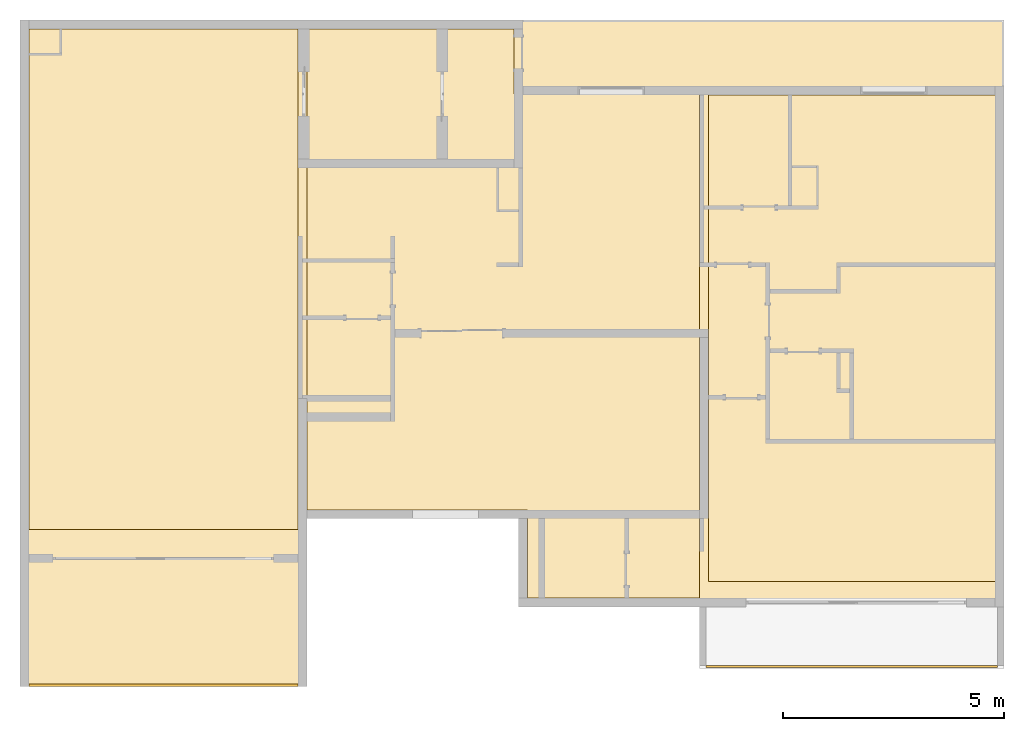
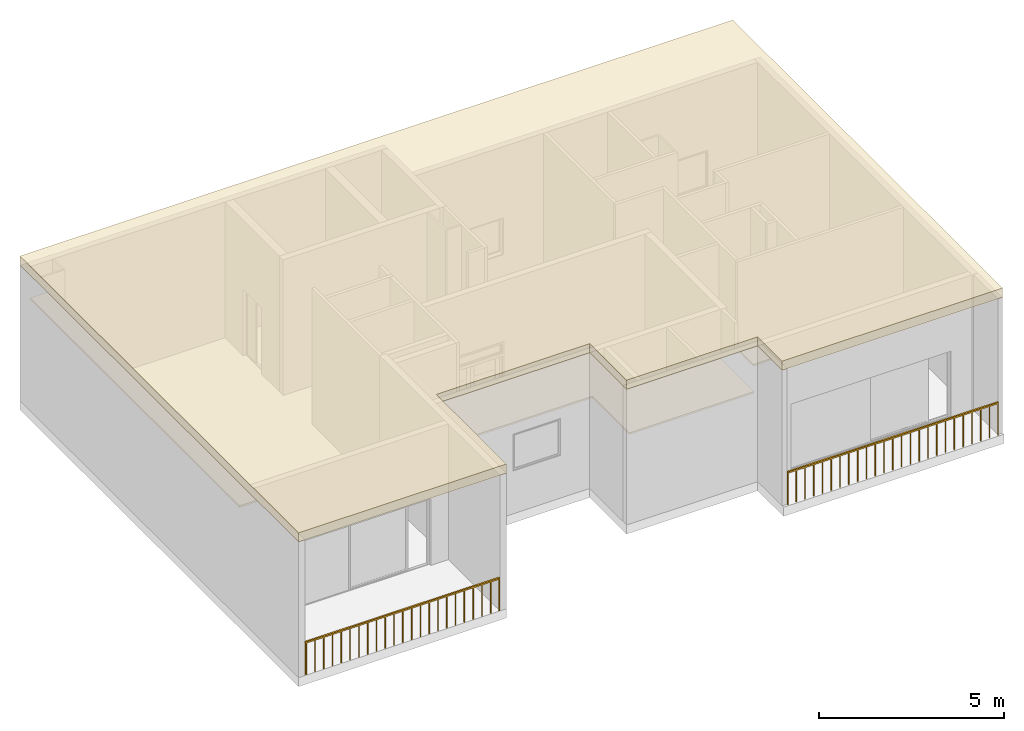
# One storey, part 6 of 7: 4 coverings, 2 railings.
"""IFC2X3 building model written with IfcOpenShell, lengths in metres."""

from ifc_helpers import new_model, entity, si_unit, converted_unit, derived_unit, direction, frame, frame_2d, origin, origin_2d_with_axis, place, context, subcontext, project, spatial, polyline, rectangle, outline, extrude, material, material_list, layer, layer_set, layer_usage, type_object, element, save


model = new_model("IFC2X3")

# Units and contexts
model_context = context("Model", 3, precision=1e-05, world=origin(), true_north=direction((6.123031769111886e-17, 1.0)))
body_context = subcontext(model_context, "Body", "Model", "MODEL_VIEW")
ifc_project = project(units=[si_unit("LENGTHUNIT", "METRE"), si_unit("AREAUNIT", "SQUARE_METRE"), si_unit("VOLUMEUNIT", "CUBIC_METRE"), converted_unit("PLANEANGLEUNIT", "DEGREE", entity("IfcRatioMeasure", 0.017453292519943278), si_unit("PLANEANGLEUNIT", "RADIAN"), dimensions=[0, 0, 0, 0, 0, 0, 0]), si_unit("MASSUNIT", "GRAM", prefix="KILO"), derived_unit("MASSDENSITYUNIT", [(si_unit("MASSUNIT", "GRAM", prefix="KILO"), 1), (si_unit("LENGTHUNIT", "METRE"), -3)]), derived_unit("MOMENTOFINERTIAUNIT", [(si_unit("LENGTHUNIT", "METRE"), 4)]), si_unit("TIMEUNIT", "SECOND"), si_unit("FREQUENCYUNIT", "HERTZ"), si_unit("THERMODYNAMICTEMPERATUREUNIT", "DEGREE_CELSIUS"), derived_unit("THERMALTRANSMITTANCEUNIT", [(si_unit("MASSUNIT", "GRAM", prefix="KILO"), 1), (si_unit("THERMODYNAMICTEMPERATUREUNIT", "KELVIN"), -1), (si_unit("TIMEUNIT", "SECOND"), -3)]), derived_unit("VOLUMETRICFLOWRATEUNIT", [(si_unit("LENGTHUNIT", "METRE"), 3), (si_unit("TIMEUNIT", "SECOND"), -1)]), derived_unit("MASSFLOWRATEUNIT", [(si_unit("MASSUNIT", "GRAM", prefix="KILO"), 1), (si_unit("TIMEUNIT", "SECOND"), -1)]), derived_unit("ROTATIONALFREQUENCYUNIT", [(si_unit("TIMEUNIT", "SECOND"), -1)]), si_unit("ELECTRICCURRENTUNIT", "AMPERE"), si_unit("ELECTRICVOLTAGEUNIT", "VOLT"), si_unit("POWERUNIT", "WATT"), si_unit("FORCEUNIT", "NEWTON", prefix="KILO"), si_unit("ILLUMINANCEUNIT", "LUX"), si_unit("LUMINOUSFLUXUNIT", "LUMEN"), si_unit("LUMINOUSINTENSITYUNIT", "CANDELA"), derived_unit("USERDEFINED", [(si_unit("MASSUNIT", "GRAM", prefix="KILO"), -1), (si_unit("LENGTHUNIT", "METRE"), -2), (si_unit("TIMEUNIT", "SECOND"), 3), (si_unit("LUMINOUSFLUXUNIT", "LUMEN"), 1)]), derived_unit("SOUNDPOWERUNIT", [(si_unit("MASSUNIT", "GRAM", prefix="KILO"), 1), (si_unit("LENGTHUNIT", "METRE"), 2), (si_unit("TIMEUNIT", "SECOND"), -3)]), derived_unit("SOUNDPRESSUREUNIT", [(si_unit("MASSUNIT", "GRAM", prefix="KILO"), 1), (si_unit("LENGTHUNIT", "METRE"), -1), (si_unit("TIMEUNIT", "SECOND"), -2)]), derived_unit("LINEARVELOCITYUNIT", [(si_unit("LENGTHUNIT", "METRE"), 1), (si_unit("TIMEUNIT", "SECOND"), -1)]), si_unit("PRESSUREUNIT", "PASCAL"), derived_unit("USERDEFINED", [(si_unit("LENGTHUNIT", "METRE"), -2), (si_unit("MASSUNIT", "GRAM", prefix="KILO"), 1), (si_unit("TIMEUNIT", "SECOND"), -2)]), derived_unit("LINEARFORCEUNIT", [(si_unit("MASSUNIT", "GRAM", prefix="KILO"), 1), (si_unit("LENGTHUNIT", "METRE"), 1), (si_unit("TIMEUNIT", "SECOND"), -2), (si_unit("LENGTHUNIT", "METRE"), -1)]), derived_unit("PLANARFORCEUNIT", [(si_unit("MASSUNIT", "GRAM", prefix="KILO"), 1), (si_unit("LENGTHUNIT", "METRE"), 1), (si_unit("TIMEUNIT", "SECOND"), -2), (si_unit("LENGTHUNIT", "METRE"), -2)])], contexts=[model_context])

# Site, building, storey
site_placement = place(None, origin())
site = spatial("IfcSite", under=ifc_project, at=site_placement, Name="Default", CompositionType="ELEMENT")
building_placement = place(site_placement, origin())
building = spatial("IfcBuilding", under=site, at=building_placement, CompositionType="ELEMENT")
storey_placement = place(building_placement, frame((0.0, 0.0, 5.639999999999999)))
storey = spatial("IfcBuildingStorey", under=building, at=storey_placement, Name="F1", CompositionType="ELEMENT", Elevation=5.639999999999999)

# Coverings
ifc_material_1 = material(Name="Metal - Stud Layer")
ifc_layer_1 = layer(ifc_material_1, 0.045)
ifc_material_2 = material(Name="Plasterboard")
ifc_layer_2 = layer(ifc_material_2, 0.011999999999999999)
ifc_layer_set_1 = layer_set([ifc_layer_1, ifc_layer_2], Name="Compound Ceiling:Plain")
ifc_layer_usage_1 = layer_usage(ifc_layer_set_1, "AXIS3", "POSITIVE", 0.0)
covering_type_1 = type_object("IfcCoveringType", Name="Compound Ceiling:Plain", PredefinedType="CEILING")
covering_1_placement = place(storey_placement, origin())
element("IfcCovering", 1, at=covering_1_placement, inside=storey, type_object=covering_type_1, material=ifc_layer_usage_1, Name="Compound Ceiling:Plain", ObjectType="Compound Ceiling:Plain", PredefinedType="CEILING", context=body_context, shape_type="SweptSolid", body=[
    extrude(rectangle(XDim=6.099999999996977, YDim=11.350000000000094, at=frame_2d((-4.440892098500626e-16, -4.440892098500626e-16), x_axis=(1.0, 0.0))), frame((9.857683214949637, 0.12760701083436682, 3.399999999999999)), (0.0, 0.0, 1.0), 0.05700000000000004),
])
ifc_layer_usage_2 = layer_usage(ifc_layer_set_1, "AXIS3", "POSITIVE", 0.0)
covering_type_2 = type_object("IfcCoveringType", Name="Compound Ceiling:Plain", PredefinedType="CEILING")
covering_2_placement = place(storey_placement, origin())
element("IfcCovering", 2, at=covering_2_placement, inside=storey, type_object=covering_type_2, material=ifc_layer_usage_2, Name="Compound Ceiling:Plain", ObjectType="Compound Ceiling:Plain", PredefinedType="CEILING", context=body_context, shape_type="SweptSolid", body=[
    extrude(rectangle(XDim=6.549999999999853, YDim=11.025000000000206, at=frame_2d((4.218847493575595e-15, -8.881784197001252e-16), x_axis=(1.0, 0.0))), frame((25.482683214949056, -1.2098929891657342, 3.399999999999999)), (0.0, 0.0, 1.0), 0.05700000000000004),
])
ifc_layer_usage_3 = layer_usage(ifc_layer_set_1, "AXIS3", "POSITIVE", 0.0)
covering_type_3 = type_object("IfcCoveringType", Name="Compound Ceiling:Plain", PredefinedType="CEILING")
covering_3_placement = place(storey_placement, origin())
element("IfcCovering", 3, at=covering_3_placement, inside=storey, type_object=covering_type_3, material=ifc_layer_usage_3, Name="Compound Ceiling:Plain", ObjectType="Compound Ceiling:Plain", PredefinedType="CEILING", context=body_context, shape_type="SweptSolid", body=[
    extrude(outline(polyline([(0.3499999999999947, -6.581249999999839), (4.2500000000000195, -6.581249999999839), (4.250000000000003, 4.843749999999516), (0.050000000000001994, 4.843749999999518), (0.049999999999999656, 6.31875000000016), (-4.650000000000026, 6.3187500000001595), (-4.650000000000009, -4.581249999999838), (0.34999999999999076, -4.581249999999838), (0.3499999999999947, -6.581249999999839)])), frame((17.75768321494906, -0.5161429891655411, 2.799999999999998)), (0.0, 0.0, 1.0), 0.05700000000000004),
])
ifc_material_3 = material(Name="Default Roof")
ifc_layer_3 = layer(ifc_material_3, 0.29999999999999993)
ifc_layer_set_2 = layer_set([ifc_layer_3], Name="Roof Soffit:Generic - 300mm")
ifc_layer_usage_4 = layer_usage(ifc_layer_set_2, "AXIS3", "POSITIVE", 0.0)
covering_type_4 = type_object("IfcCoveringType", Name="Roof Soffit:Generic - 300mm", PredefinedType="CEILING")
covering_4_placement = place(storey_placement, origin())
element("IfcCovering", 4, at=covering_4_placement, inside=storey, type_object=covering_type_4, material=ifc_layer_usage_4, Name="Roof Soffit:Generic - 300mm", ObjectType="Roof Soffit:Generic - 300mm", PredefinedType="CEILING", context=body_context, shape_type="SweptSolid", body=[
    extrude(outline(polyline([(-3.759420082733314, -11.199999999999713), (10.865579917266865, -11.199999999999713), (10.865579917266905, 11.099999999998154), (-4.234420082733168, 11.099999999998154), (-4.23442008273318, 4.600000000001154), (-0.4373196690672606, 4.600000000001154), (-0.43731966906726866, -0.19999999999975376), (-2.4344200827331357, -0.19999999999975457), (-2.4344200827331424, -4.299999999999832), (-3.7594200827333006, -4.299999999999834), (-3.759420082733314, -11.199999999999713)])), frame((17.707683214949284, -4.862972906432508, 4.49), z_axis=(0.0, 0.0, 1.0), x_axis=(0.0, 1.0, 0.0)), (0.0, 0.0, 1.0), 0.29999999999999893),
])

# Railings
ifc_material_4 = material(Name="<Unnamed>")
ifc_material_list_1 = material_list([ifc_material_4, ifc_material_4, ifc_material_4, ifc_material_4, ifc_material_4, ifc_material_4, ifc_material_4, ifc_material_4, ifc_material_4, ifc_material_4, ifc_material_4, ifc_material_4, ifc_material_4, ifc_material_4, ifc_material_4, ifc_material_4, ifc_material_4, ifc_material_4, ifc_material_4, ifc_material_4, ifc_material_4, ifc_material_4, ifc_material_4, ifc_material_4, ifc_material_4, ifc_material_4])
railing_1_placement = place(storey_placement, origin())
element("IfcRailing", 5, at=railing_1_placement, inside=storey, material=ifc_material_list_1, Name="Railing:1100mm", ObjectType="Railing:1100mm", PredefinedType="NOTDEFINED", context=body_context, shape_type="SweptSolid", body=[
    extrude(rectangle(XDim=0.02499999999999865, YDim=0.02499999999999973, at=origin_2d_with_axis()), frame((28.482683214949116, -8.647392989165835, 0.0)), (0.0, 0.0, 1.0), 1.0499999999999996),
    extrude(rectangle(XDim=0.02499999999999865, YDim=0.02499999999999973, at=frame_2d((4.330737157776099e-15, 0.0), x_axis=(1.0, 0.0))), frame((28.207683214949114, -8.647392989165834, 0.0)), (0.0, 0.0, 1.0), 1.0499999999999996),
    extrude(rectangle(XDim=0.02499999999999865, YDim=0.02499999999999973, at=origin_2d_with_axis()), frame((27.932683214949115, -8.647392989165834, 0.0)), (0.0, 0.0, 1.0), 1.0499999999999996),
    extrude(rectangle(XDim=0.02499999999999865, YDim=0.02499999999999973, at=frame_2d((0.0, 1.0824674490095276e-15), x_axis=(1.0, 0.0))), frame((27.657683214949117, -8.647392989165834, 0.0)), (0.0, 0.0, 1.0), 1.0499999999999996),
    extrude(rectangle(XDim=0.02499999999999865, YDim=0.02499999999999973, at=frame_2d((4.330737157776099e-15, 0.0), x_axis=(1.0, 0.0))), frame((27.382683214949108, -8.647392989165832, 0.0)), (0.0, 0.0, 1.0), 1.0499999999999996),
    extrude(rectangle(XDim=0.02499999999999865, YDim=0.02499999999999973, at=origin_2d_with_axis()), frame((27.107683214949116, -8.64739298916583, 0.0)), (0.0, 0.0, 1.0), 1.0499999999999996),
    extrude(rectangle(XDim=0.02499999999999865, YDim=0.02499999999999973, at=frame_2d((-4.330737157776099e-15, 0.0), x_axis=(1.0, 0.0))), frame((26.83268321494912, -8.64739298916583, 0.0)), (0.0, 0.0, 1.0), 1.0499999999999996),
    extrude(rectangle(XDim=0.02499999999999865, YDim=0.02499999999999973, at=frame_2d((0.0, -1.0824674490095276e-15), x_axis=(1.0, 0.0))), frame((26.557683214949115, -8.647392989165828, 0.0)), (0.0, 0.0, 1.0), 1.0499999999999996),
    extrude(rectangle(XDim=0.02499999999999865, YDim=0.02499999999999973, at=frame_2d((0.0, -1.0824674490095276e-15), x_axis=(1.0, 0.0))), frame((26.282683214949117, -8.647392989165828, 0.0)), (0.0, 0.0, 1.0), 1.0499999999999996),
    extrude(rectangle(XDim=0.02499999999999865, YDim=0.02499999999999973, at=frame_2d((-4.330737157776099e-15, 0.0), x_axis=(1.0, 0.0))), frame((26.007683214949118, -8.647392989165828, 0.0)), (0.0, 0.0, 1.0), 1.0499999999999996),
    extrude(rectangle(XDim=0.02499999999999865, YDim=0.02499999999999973, at=origin_2d_with_axis()), frame((25.732683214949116, -8.647392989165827, 0.0)), (0.0, 0.0, 1.0), 1.0499999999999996),
    extrude(rectangle(XDim=0.02499999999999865, YDim=0.02499999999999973, at=origin_2d_with_axis()), frame((25.457683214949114, -8.647392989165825, 0.0)), (0.0, 0.0, 1.0), 1.0499999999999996),
    extrude(rectangle(XDim=0.02499999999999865, YDim=0.02499999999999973, at=frame_2d((0.0, 1.0824674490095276e-15), x_axis=(1.0, 0.0))), frame((25.182683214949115, -8.647392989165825, 0.0)), (0.0, 0.0, 1.0), 1.0499999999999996),
    extrude(rectangle(XDim=0.02499999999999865, YDim=0.02499999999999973, at=origin_2d_with_axis()), frame((24.907683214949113, -8.647392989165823, 0.0)), (0.0, 0.0, 1.0), 1.0499999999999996),
    extrude(rectangle(XDim=0.02499999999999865, YDim=0.02499999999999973, at=origin_2d_with_axis()), frame((24.632683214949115, -8.647392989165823, 0.0)), (0.0, 0.0, 1.0), 1.0499999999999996),
    extrude(rectangle(XDim=0.02499999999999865, YDim=0.02499999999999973, at=origin_2d_with_axis()), frame((24.357683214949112, -8.647392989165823, 0.0)), (0.0, 0.0, 1.0), 1.0499999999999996),
    extrude(rectangle(XDim=0.02499999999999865, YDim=0.02499999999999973, at=origin_2d_with_axis()), frame((24.082683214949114, -8.647392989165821, 0.0)), (0.0, 0.0, 1.0), 1.0499999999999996),
    extrude(rectangle(XDim=0.02499999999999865, YDim=0.02499999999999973, at=frame_2d((0.0, -1.0824674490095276e-15), x_axis=(1.0, 0.0))), frame((23.807683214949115, -8.64739298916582, 0.0)), (0.0, 0.0, 1.0), 1.0499999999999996),
    extrude(rectangle(XDim=0.02499999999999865, YDim=0.02499999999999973, at=origin_2d_with_axis()), frame((23.532683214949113, -8.64739298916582, 0.0)), (0.0, 0.0, 1.0), 1.0499999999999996),
    extrude(rectangle(XDim=0.02499999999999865, YDim=0.02499999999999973, at=origin_2d_with_axis()), frame((23.257683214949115, -8.647392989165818, 0.0)), (0.0, 0.0, 1.0), 1.0499999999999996),
    extrude(rectangle(XDim=0.02499999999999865, YDim=0.02499999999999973, at=origin_2d_with_axis()), frame((22.982683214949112, -8.647392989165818, 0.0)), (0.0, 0.0, 1.0), 1.0499999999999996),
    extrude(rectangle(XDim=0.02499999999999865, YDim=0.02499999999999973, at=origin_2d_with_axis()), frame((22.707683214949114, -8.647392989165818, 0.0)), (0.0, 0.0, 1.0), 1.0499999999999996),
    extrude(rectangle(XDim=0.02499999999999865, YDim=0.02499999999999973, at=frame_2d((0.0, 1.0824674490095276e-15), x_axis=(1.0, 0.0))), frame((22.43268321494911, -8.647392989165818, 0.0)), (0.0, 0.0, 1.0), 1.0499999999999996),
    extrude(rectangle(XDim=0.02499999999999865, YDim=0.02499999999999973, at=frame_2d((4.330737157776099e-15, 0.0), x_axis=(1.0, 0.0))), frame((28.74518321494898, -8.647392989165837, 0.0)), (0.0, 0.0, 1.0), 1.0499999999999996),
    extrude(rectangle(XDim=0.02499999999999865, YDim=0.02499999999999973, at=origin_2d_with_axis()), frame((22.170183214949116, -8.647392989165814, 0.0)), (0.0, 0.0, 1.0), 1.0499999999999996),
    extrude(rectangle(XDim=6.599999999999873, YDim=0.050000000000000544, at=frame_2d((-2.220446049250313e-15, 5.412337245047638e-16), x_axis=(1.0, 0.0))), frame((25.457683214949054, -8.647392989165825, 1.0500000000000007)), (0.0, 0.0, 1.0), 0.04999999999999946),
])
ifc_material_list_2 = material_list([ifc_material_4, ifc_material_4, ifc_material_4, ifc_material_4, ifc_material_4, ifc_material_4, ifc_material_4, ifc_material_4, ifc_material_4, ifc_material_4, ifc_material_4, ifc_material_4, ifc_material_4, ifc_material_4, ifc_material_4, ifc_material_4, ifc_material_4, ifc_material_4, ifc_material_4, ifc_material_4, ifc_material_4, ifc_material_4, ifc_material_4, ifc_material_4, ifc_material_4])
railing_2_placement = place(storey_placement, origin())
element("IfcRailing", 6, at=railing_2_placement, inside=storey, material=ifc_material_list_2, Name="Railing:1100mm", ObjectType="Railing:1100mm", PredefinedType="NOTDEFINED", context=body_context, shape_type="SweptSolid", body=[
    extrude(rectangle(XDim=0.02499999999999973, YDim=0.02499999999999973, at=origin_2d_with_axis()), frame((6.857683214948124, -9.07239298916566, 0.0), z_axis=(0.0, 0.0, 1.0), x_axis=(-1.0, 0.0, 0.0)), (0.0, 0.0, 1.0), 1.0499999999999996),
    extrude(rectangle(XDim=0.02499999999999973, YDim=0.02499999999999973, at=frame_2d((-1.0824674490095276e-15, -1.0824674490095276e-15), x_axis=(1.0, 0.0))), frame((7.1326832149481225, -9.072392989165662, 0.0), z_axis=(0.0, 0.0, 1.0), x_axis=(-1.0, 0.0, 0.0)), (0.0, 0.0, 1.0), 1.0499999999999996),
    extrude(rectangle(XDim=0.02499999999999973, YDim=0.02499999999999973, at=origin_2d_with_axis()), frame((7.407683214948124, -9.072392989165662, 0.0), z_axis=(0.0, 0.0, 1.0), x_axis=(-1.0, 0.0, 0.0)), (0.0, 0.0, 1.0), 1.0499999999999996),
    extrude(rectangle(XDim=0.02499999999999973, YDim=0.02499999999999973, at=origin_2d_with_axis()), frame((7.682683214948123, -9.072392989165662, 0.0), z_axis=(0.0, 0.0, 1.0), x_axis=(-1.0, 0.0, 0.0)), (0.0, 0.0, 1.0), 1.0499999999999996),
    extrude(rectangle(XDim=0.02499999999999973, YDim=0.02499999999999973, at=origin_2d_with_axis()), frame((7.957683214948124, -9.072392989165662, 0.0), z_axis=(0.0, 0.0, 1.0), x_axis=(-1.0, 0.0, 0.0)), (0.0, 0.0, 1.0), 1.0499999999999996),
    extrude(rectangle(XDim=0.02499999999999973, YDim=0.02499999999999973, at=origin_2d_with_axis()), frame((8.232683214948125, -9.072392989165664, 0.0), z_axis=(0.0, 0.0, 1.0), x_axis=(-1.0, 0.0, 0.0)), (0.0, 0.0, 1.0), 1.0499999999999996),
    extrude(rectangle(XDim=0.02499999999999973, YDim=0.02499999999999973, at=frame_2d((0.0, 1.0824674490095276e-15), x_axis=(1.0, 0.0))), frame((8.507683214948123, -9.072392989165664, 0.0), z_axis=(0.0, 0.0, 1.0), x_axis=(-1.0, 0.0, 0.0)), (0.0, 0.0, 1.0), 1.0499999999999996),
    extrude(rectangle(XDim=0.02499999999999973, YDim=0.02499999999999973, at=origin_2d_with_axis()), frame((8.782683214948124, -9.072392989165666, 0.0), z_axis=(0.0, 0.0, 1.0), x_axis=(-1.0, 0.0, 0.0)), (0.0, 0.0, 1.0), 1.0499999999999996),
    extrude(rectangle(XDim=0.02499999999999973, YDim=0.02499999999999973, at=frame_2d((1.0824674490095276e-15, 0.0), x_axis=(1.0, 0.0))), frame((9.057683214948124, -9.072392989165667, 0.0), z_axis=(0.0, 0.0, 1.0), x_axis=(-1.0, 0.0, 0.0)), (0.0, 0.0, 1.0), 1.0499999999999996),
    extrude(rectangle(XDim=0.02499999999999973, YDim=0.02499999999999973, at=origin_2d_with_axis()), frame((9.332683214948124, -9.072392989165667, 0.0), z_axis=(0.0, 0.0, 1.0), x_axis=(-1.0, 0.0, 0.0)), (0.0, 0.0, 1.0), 1.0499999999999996),
    extrude(rectangle(XDim=0.02499999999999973, YDim=0.02499999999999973, at=frame_2d((-1.0824674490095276e-15, 0.0), x_axis=(1.0, 0.0))), frame((9.607683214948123, -9.07239298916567, 0.0), z_axis=(0.0, 0.0, 1.0), x_axis=(-1.0, 0.0, 0.0)), (0.0, 0.0, 1.0), 1.0499999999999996),
    extrude(rectangle(XDim=0.025000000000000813, YDim=0.02499999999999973, at=frame_2d((0.0, -1.0824674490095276e-15), x_axis=(1.0, 0.0))), frame((9.882683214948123, -9.072392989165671, 0.0), z_axis=(0.0, 0.0, 1.0), x_axis=(-1.0, 0.0, 0.0)), (0.0, 0.0, 1.0), 1.0499999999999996),
    extrude(rectangle(XDim=0.025000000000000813, YDim=0.02499999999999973, at=origin_2d_with_axis()), frame((10.157683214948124, -9.072392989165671, 0.0), z_axis=(0.0, 0.0, 1.0), x_axis=(-1.0, 0.0, 0.0)), (0.0, 0.0, 1.0), 1.0499999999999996),
    extrude(rectangle(XDim=0.025000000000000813, YDim=0.02499999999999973, at=origin_2d_with_axis()), frame((10.432683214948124, -9.072392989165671, 0.0), z_axis=(0.0, 0.0, 1.0), x_axis=(-1.0, 0.0, 0.0)), (0.0, 0.0, 1.0), 1.0499999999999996),
    extrude(rectangle(XDim=0.025000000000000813, YDim=0.02499999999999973, at=origin_2d_with_axis()), frame((10.707683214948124, -9.072392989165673, 0.0), z_axis=(0.0, 0.0, 1.0), x_axis=(-1.0, 0.0, 0.0)), (0.0, 0.0, 1.0), 1.0499999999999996),
    extrude(rectangle(XDim=0.025000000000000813, YDim=0.02499999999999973, at=origin_2d_with_axis()), frame((10.982683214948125, -9.072392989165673, 0.0), z_axis=(0.0, 0.0, 1.0), x_axis=(-1.0, 0.0, 0.0)), (0.0, 0.0, 1.0), 1.0499999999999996),
    extrude(rectangle(XDim=0.025000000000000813, YDim=0.02499999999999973, at=frame_2d((0.0, 1.0824674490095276e-15), x_axis=(1.0, 0.0))), frame((11.257683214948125, -9.072392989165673, 0.0), z_axis=(0.0, 0.0, 1.0), x_axis=(-1.0, 0.0, 0.0)), (0.0, 0.0, 1.0), 1.0499999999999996),
    extrude(rectangle(XDim=0.025000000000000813, YDim=0.02499999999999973, at=origin_2d_with_axis()), frame((11.532683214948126, -9.072392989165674, 0.0), z_axis=(0.0, 0.0, 1.0), x_axis=(-1.0, 0.0, 0.0)), (0.0, 0.0, 1.0), 1.0499999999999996),
    extrude(rectangle(XDim=0.025000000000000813, YDim=0.02499999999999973, at=origin_2d_with_axis()), frame((11.807683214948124, -9.072392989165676, 0.0), z_axis=(0.0, 0.0, 1.0), x_axis=(-1.0, 0.0, 0.0)), (0.0, 0.0, 1.0), 1.0499999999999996),
    extrude(rectangle(XDim=0.025000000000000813, YDim=0.02499999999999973, at=origin_2d_with_axis()), frame((12.082683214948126, -9.072392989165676, 0.0), z_axis=(0.0, 0.0, 1.0), x_axis=(-1.0, 0.0, 0.0)), (0.0, 0.0, 1.0), 1.0499999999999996),
    extrude(rectangle(XDim=0.025000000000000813, YDim=0.02499999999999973, at=origin_2d_with_axis()), frame((12.357683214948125, -9.072392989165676, 0.0), z_axis=(0.0, 0.0, 1.0), x_axis=(-1.0, 0.0, 0.0)), (0.0, 0.0, 1.0), 1.0499999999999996),
    extrude(rectangle(XDim=0.025000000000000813, YDim=0.02499999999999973, at=frame_2d((0.0, -1.0824674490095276e-15), x_axis=(1.0, 0.0))), frame((12.632683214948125, -9.07239298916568, 0.0), z_axis=(0.0, 0.0, 1.0), x_axis=(-1.0, 0.0, 0.0)), (0.0, 0.0, 1.0), 1.0499999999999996),
    extrude(rectangle(XDim=0.02499999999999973, YDim=0.02499999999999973, at=frame_2d((-1.0824674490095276e-15, 0.0), x_axis=(1.0, 0.0))), frame((6.820183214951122, -9.07239298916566, 0.0), z_axis=(0.0, 0.0, 1.0), x_axis=(-1.0, 0.0, 0.0)), (0.0, 0.0, 1.0), 1.0499999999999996),
    extrude(rectangle(XDim=0.025000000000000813, YDim=0.02499999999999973, at=origin_2d_with_axis()), frame((12.895183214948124, -9.07239298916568, 0.0), z_axis=(0.0, 0.0, 1.0), x_axis=(-1.0, 0.0, 0.0)), (0.0, 0.0, 1.0), 1.0499999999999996),
    extrude(rectangle(XDim=6.099999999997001, YDim=0.050000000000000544, at=frame_2d((-4.440892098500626e-16, -5.412337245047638e-16), x_axis=(1.0, 0.0))), frame((9.857683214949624, -9.072392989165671, 1.0500000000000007), z_axis=(0.0, 0.0, 1.0), x_axis=(-1.0, 0.0, 0.0)), (0.0, 0.0, 1.0), 0.04999999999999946),
])

save(model, "model.ifc")
